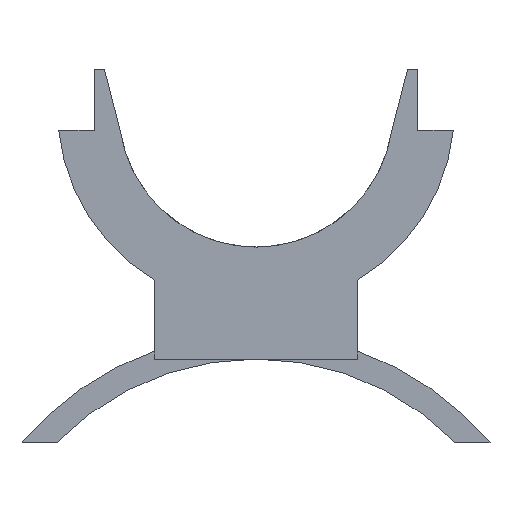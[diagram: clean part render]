
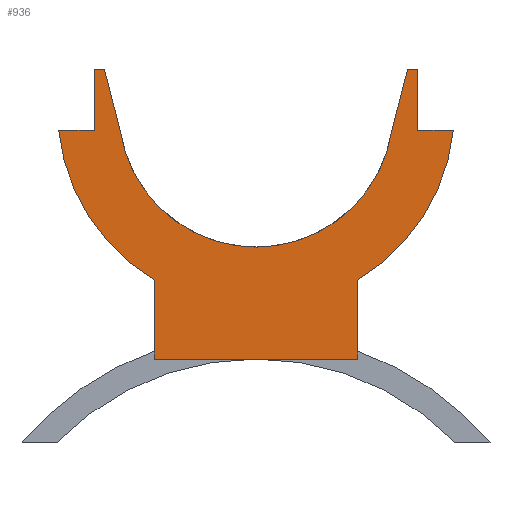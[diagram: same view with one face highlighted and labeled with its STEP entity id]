
A CAD part, front view. The second image highlights one B-rep face of the part: STEP entity #936.
In plain terms, the highlighted planar face has unit normal (0, -1, 0).
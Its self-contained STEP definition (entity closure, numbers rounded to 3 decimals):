
#20 = CARTESIAN_POINT ( 'NONE',  ( 0., -10.2, 0. ) ) ;
#27 = PLANE ( 'NONE',  #817 ) ;
#29 = DIRECTION ( 'NONE',  ( 0., -1., 0. ) ) ;
#30 = DIRECTION ( 'NONE',  ( 0., 0., -1. ) ) ;
#63 = CARTESIAN_POINT ( 'NONE',  ( 0., -10.2, 6.548 ) ) ;
#64 = DIRECTION ( 'NONE',  ( 0., 1., 0. ) ) ;
#65 = DIRECTION ( 'NONE',  ( 0., 0., -1. ) ) ;
#177 = VERTEX_POINT ( 'NONE', #1081 ) ;
#181 = VERTEX_POINT ( 'NONE', #1059 ) ;
#184 = VERTEX_POINT ( 'NONE', #1055 ) ;
#185 = VERTEX_POINT ( 'NONE', #1069 ) ;
#190 = VERTEX_POINT ( 'NONE', #1064 ) ;
#195 = FACE_OUTER_BOUND ( 'NONE', #1140, .T. ) ;
#261 = CIRCLE ( 'NONE', #846, 2.7 ) ;
#287 = VECTOR ( 'NONE', #633, 1000. ) ;
#289 = LINE ( 'NONE', #632, #287 ) ;
#356 = LINE ( 'NONE', #785, #393 ) ;
#386 = VECTOR ( 'NONE', #1105, 1000. ) ;
#392 = LINE ( 'NONE', #1101, #398 ) ;
#393 = VECTOR ( 'NONE', #786, 1000. ) ;
#398 = VECTOR ( 'NONE', #1102, 1000. ) ;
#421 = VERTEX_POINT ( 'NONE', #1070 ) ;
#424 = VERTEX_POINT ( 'NONE', #608 ) ;
#433 = VERTEX_POINT ( 'NONE', #1106 ) ;
#447 = VERTEX_POINT ( 'NONE', #745 ) ;
#452 = VERTEX_POINT ( 'NONE', #1111 ) ;
#454 = VERTEX_POINT ( 'NONE', #1113 ) ;
#460 = VECTOR ( 'NONE', #1134, 1000. ) ;
#461 = CIRCLE ( 'NONE', #664, 2.7 ) ;
#462 = LINE ( 'NONE', #787, #464 ) ;
#463 = VERTEX_POINT ( 'NONE', #1117 ) ;
#464 = VECTOR ( 'NONE', #788, 1000. ) ;
#465 = LINE ( 'NONE', #1131, #469 ) ;
#466 = VECTOR ( 'NONE', #784, 1000. ) ;
#469 = VECTOR ( 'NONE', #1132, 1000. ) ;
#472 = CIRCLE ( 'NONE', #658, 3.9 ) ;
#473 = VECTOR ( 'NONE', #1127, 1000. ) ;
#474 = CIRCLE ( 'NONE', #643, 3.9 ) ;
#476 = LINE ( 'NONE', #789, #386 ) ;
#479 = LINE ( 'NONE', #1097, #483 ) ;
#480 = VECTOR ( 'NONE', #1100, 1000. ) ;
#483 = VECTOR ( 'NONE', #1098, 1000. ) ;
#485 = LINE ( 'NONE', #783, #466 ) ;
#486 = LINE ( 'NONE', #1099, #480 ) ;
#488 = LINE ( 'NONE', #1133, #460 ) ;
#490 = VERTEX_POINT ( 'NONE', #1119 ) ;
#491 = VERTEX_POINT ( 'NONE', #1120 ) ;
#492 = VERTEX_POINT ( 'NONE', #1121 ) ;
#533 = EDGE_CURVE ( 'NONE', #181, #177, #1381, .T. ) ;
#536 = EDGE_CURVE ( 'NONE', #177, #433, #465, .T. ) ;
#537 = EDGE_CURVE ( 'NONE', #454, #491, #472, .T. ) ;
#538 = EDGE_CURVE ( 'NONE', #433, #421, #474, .T. ) ;
#539 = EDGE_CURVE ( 'NONE', #421, #463, #488, .T. ) ;
#540 = EDGE_CURVE ( 'NONE', #463, #185, #485, .T. ) ;
#541 = EDGE_CURVE ( 'NONE', #185, #492, #356, .T. ) ;
#542 = EDGE_CURVE ( 'NONE', #492, #424, #462, .T. ) ;
#543 = EDGE_CURVE ( 'NONE', #190, #184, #461, .T. ) ;
#546 = EDGE_CURVE ( 'NONE', #184, #447, #479, .T. ) ;
#547 = EDGE_CURVE ( 'NONE', #447, #490, #486, .T. ) ;
#548 = EDGE_CURVE ( 'NONE', #490, #452, #392, .T. ) ;
#550 = EDGE_CURVE ( 'NONE', #452, #454, #476, .T. ) ;
#608 = CARTESIAN_POINT ( 'NONE',  ( 2.67, -10.2, 6.148 ) ) ;
#632 = CARTESIAN_POINT ( 'NONE',  ( -2., -10.2, 3.848 ) ) ;
#633 = DIRECTION ( 'NONE',  ( 0., 0., -1. ) ) ;
#643 = AXIS2_PLACEMENT_3D ( 'NONE', #780, #781, #782 ) ;
#649 = EDGE_CURVE ( 'NONE', #491, #181, #289, .T. ) ;
#658 = AXIS2_PLACEMENT_3D ( 'NONE', #1135, #1136, #1137 ) ;
#664 = AXIS2_PLACEMENT_3D ( 'NONE', #791, #792, #793 ) ;
#677 = EDGE_CURVE ( 'NONE', #424, #190, #261, .T. ) ;
#745 = CARTESIAN_POINT ( 'NONE',  ( -2.979, -10.2, 7.348 ) ) ;
#780 = CARTESIAN_POINT ( 'NONE',  ( 0., -10.2, 6.548 ) ) ;
#781 = DIRECTION ( 'NONE',  ( 0., -1., 0. ) ) ;
#782 = DIRECTION ( 'NONE',  ( 0., 0., -1. ) ) ;
#783 = CARTESIAN_POINT ( 'NONE',  ( 3.179, -10.2, 7.348 ) ) ;
#784 = DIRECTION ( 'NONE',  ( 0., 0., 1. ) ) ;
#785 = CARTESIAN_POINT ( 'NONE',  ( 2.979, -10.2, 7.348 ) ) ;
#786 = DIRECTION ( 'NONE',  ( -1., 0., 0. ) ) ;
#787 = CARTESIAN_POINT ( 'NONE',  ( 2.67, -10.2, 6.148 ) ) ;
#788 = DIRECTION ( 'NONE',  ( -0.25, 0., -0.968 ) ) ;
#789 = CARTESIAN_POINT ( 'NONE',  ( -3.879, -10.2, 6.148 ) ) ;
#791 = CARTESIAN_POINT ( 'NONE',  ( 0., -10.2, 6.548 ) ) ;
#792 = DIRECTION ( 'NONE',  ( 0., 1., 0. ) ) ;
#793 = DIRECTION ( 'NONE',  ( 0., 0., -1. ) ) ;
#817 = AXIS2_PLACEMENT_3D ( 'NONE', #20, #29, #30 ) ;
#846 = AXIS2_PLACEMENT_3D ( 'NONE', #63, #64, #65 ) ;
#936 = ADVANCED_FACE ( 'NONE', ( #195 ), #27, .T. ) ;
#1055 = CARTESIAN_POINT ( 'NONE',  ( -2.67, -10.2, 6.148 ) ) ;
#1059 = CARTESIAN_POINT ( 'NONE',  ( -2., -10.2, 1.648 ) ) ;
#1064 = CARTESIAN_POINT ( 'NONE',  ( 0., -10.2, 3.848 ) ) ;
#1069 = CARTESIAN_POINT ( 'NONE',  ( 3.179, -10.2, 7.348 ) ) ;
#1070 = CARTESIAN_POINT ( 'NONE',  ( 3.879, -10.2, 6.148 ) ) ;
#1081 = CARTESIAN_POINT ( 'NONE',  ( 2., -10.2, 1.648 ) ) ;
#1097 = CARTESIAN_POINT ( 'NONE',  ( -2.979, -10.2, 7.348 ) ) ;
#1098 = DIRECTION ( 'NONE',  ( -0.25, 0., 0.968 ) ) ;
#1099 = CARTESIAN_POINT ( 'NONE',  ( -3.179, -10.2, 7.348 ) ) ;
#1100 = DIRECTION ( 'NONE',  ( -1., 0., 0. ) ) ;
#1101 = CARTESIAN_POINT ( 'NONE',  ( -3.179, -10.2, 6.148 ) ) ;
#1102 = DIRECTION ( 'NONE',  ( 0., 0., -1. ) ) ;
#1105 = DIRECTION ( 'NONE',  ( -1., 0., 0. ) ) ;
#1106 = CARTESIAN_POINT ( 'NONE',  ( 2., -10.2, 3.2 ) ) ;
#1111 = CARTESIAN_POINT ( 'NONE',  ( -3.179, -10.2, 6.148 ) ) ;
#1113 = CARTESIAN_POINT ( 'NONE',  ( -3.879, -10.2, 6.148 ) ) ;
#1117 = CARTESIAN_POINT ( 'NONE',  ( 3.179, -10.2, 6.148 ) ) ;
#1119 = CARTESIAN_POINT ( 'NONE',  ( -3.179, -10.2, 7.348 ) ) ;
#1120 = CARTESIAN_POINT ( 'NONE',  ( -2., -10.2, 3.2 ) ) ;
#1121 = CARTESIAN_POINT ( 'NONE',  ( 2.979, -10.2, 7.348 ) ) ;
#1126 = CARTESIAN_POINT ( 'NONE',  ( -2., -10.2, 1.648 ) ) ;
#1127 = DIRECTION ( 'NONE',  ( 1., 0., 0. ) ) ;
#1131 = CARTESIAN_POINT ( 'NONE',  ( 2., -10.2, 1.648 ) ) ;
#1132 = DIRECTION ( 'NONE',  ( 0., 0., 1. ) ) ;
#1133 = CARTESIAN_POINT ( 'NONE',  ( 3.179, -10.2, 6.148 ) ) ;
#1134 = DIRECTION ( 'NONE',  ( -1., 0., 0. ) ) ;
#1135 = CARTESIAN_POINT ( 'NONE',  ( 0., -10.2, 6.548 ) ) ;
#1136 = DIRECTION ( 'NONE',  ( 0., -1., 0. ) ) ;
#1137 = DIRECTION ( 'NONE',  ( 0., 0., -1. ) ) ;
#1140 = EDGE_LOOP ( 'NONE', ( #1233, #1236, #1232, #1174, #1175, #1309, #1311, #1315, #1208, #1217, #1304, #1239, #1271, #1261, #1260 ) ) ;
#1174 = ORIENTED_EDGE ( 'NONE', *, *, #536, .T. ) ;
#1175 = ORIENTED_EDGE ( 'NONE', *, *, #538, .T. ) ;
#1208 = ORIENTED_EDGE ( 'NONE', *, *, #542, .T. ) ;
#1217 = ORIENTED_EDGE ( 'NONE', *, *, #677, .T. ) ;
#1232 = ORIENTED_EDGE ( 'NONE', *, *, #533, .T. ) ;
#1233 = ORIENTED_EDGE ( 'NONE', *, *, #537, .T. ) ;
#1236 = ORIENTED_EDGE ( 'NONE', *, *, #649, .T. ) ;
#1239 = ORIENTED_EDGE ( 'NONE', *, *, #546, .T. ) ;
#1260 = ORIENTED_EDGE ( 'NONE', *, *, #550, .T. ) ;
#1261 = ORIENTED_EDGE ( 'NONE', *, *, #548, .T. ) ;
#1271 = ORIENTED_EDGE ( 'NONE', *, *, #547, .T. ) ;
#1304 = ORIENTED_EDGE ( 'NONE', *, *, #543, .T. ) ;
#1309 = ORIENTED_EDGE ( 'NONE', *, *, #539, .T. ) ;
#1311 = ORIENTED_EDGE ( 'NONE', *, *, #540, .T. ) ;
#1315 = ORIENTED_EDGE ( 'NONE', *, *, #541, .T. ) ;
#1381 = LINE ( 'NONE', #1126, #473 ) ;
